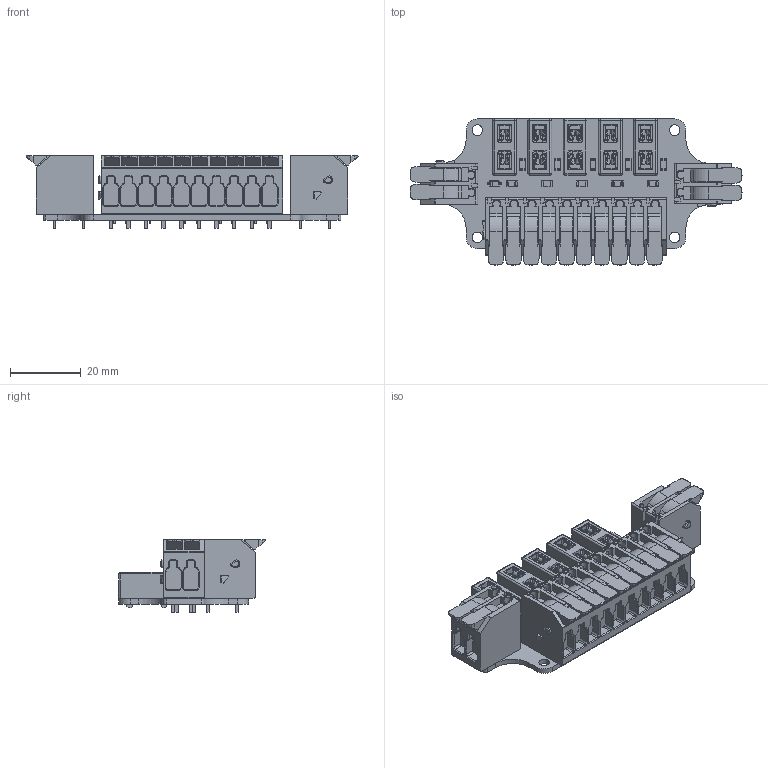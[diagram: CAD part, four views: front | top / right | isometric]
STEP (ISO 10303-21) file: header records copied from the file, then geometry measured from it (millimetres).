
FILE_DESCRIPTION(('KiCad electronic assembly'),'2;1');
FILE_NAME('mini-pdb.step','2025-10-06T22:04:26',('Pcbnew'),('Kicad'), 'Open CASCADE STEP processor 7.6','KiCad to STEP converter','Unknown' );
FILE_SCHEMA(('AUTOMOTIVE_DESIGN { 1 0 10303 214 1 1 1 1 }'));
Length unit declared in the file: millimetre
Products named in the file (10): mini-pdb 1; Keystone-3568; F3568-1; 3557_rev.C; LED_1206_3216Metric; R_1206_3216Metric; WAGO-2604-1102; D_SOD-123; WAGO-2604-1110; mini-pdb_PCB
Assembly tree (23 placements, depth 3):
  mini-pdb 1
    Keystone-3568  x5
      F3568-1
      3557_rev.C
    LED_1206_3216Metric  x5
    R_1206_3216Metric  x5
    WAGO-2604-1102  x2
    D_SOD-123
    WAGO-2604-1110
    mini-pdb_PCB
Bounding box: 94.16 x 41.57 x 20.7 mm (x, y, z)
Volume: 24204.1 mm3; surface area: 24247.3 mm2
Topology: 30 solids, 30 shells, 3460 faces, 9100 edges, 5774 vertices
Faces by surface type: plane 2238, cylinder 849, cone 177, sphere 100, torus 40, revolution 40, bspline 16
Full cylindrical faces by diameter (mm): 1.397 x28, 1.6 x20, 3 x4
Entity records: 52949 total; most frequent: CARTESIAN_POINT 9847, ORIENTED_EDGE 9030, DIRECTION 8907, EDGE_CURVE 4515, LINE 3091, VECTOR 3091, AXIS2_PLACEMENT_3D 2906, VERTEX_POINT 2898
